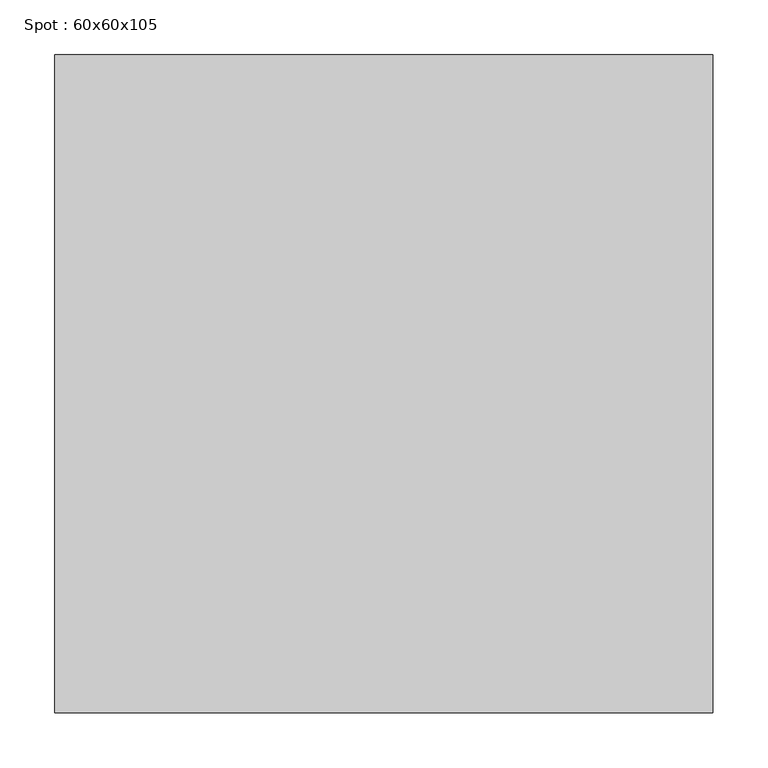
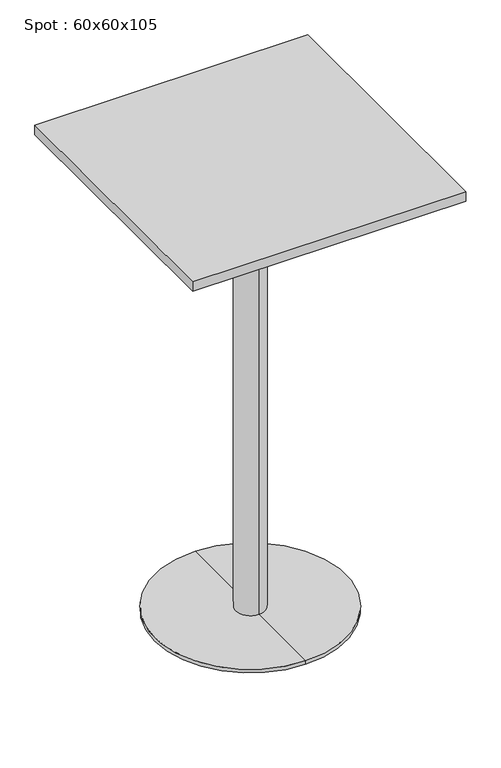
"""IFC4 building model written with IfcOpenShell, lengths in millimetres: furniture geometry, Spot : 60x60x105."""

import ifcopenshell
import ifcopenshell.guid

model = None  # the IFC model being written
_history = None  # IfcOwnerHistory: only IFC2X3 demands one
_inside = {}  # id of a spatial element -> (the spatial element, [elements in it])
_under = {}  # id of a project, library or spatial element -> (it, [spatial elements below it])
_declared = {}  # id of a project -> (the project, [libraries it declares])
_typed = {}  # id of a type object -> (the type object, [elements of that type])
_made_of = {}  # id of a material, layer set ... -> (it, [elements and type objects made of it])


def new_model(schema):
    """Start an empty IFC model of exactly this schema.

    Asked for "IFC4X3", IfcOpenShell would pick the latest addendum, in which some entities
    have other attributes; the version numbers below select the first issue.
    IFC2X3 requires an IfcOwnerHistory on every rooted entity: one is made here for all.
    """
    global model, _history
    if schema == "IFC4X3":
        model = ifcopenshell.file(schema_version=(4, 3, 0, 0))
    else:
        model = ifcopenshell.file(schema=schema)
    _inside.clear()
    _under.clear()
    _declared.clear()
    _typed.clear()
    _made_of.clear()
    _history = None
    if model.schema == "IFC2X3":
        org = make("IfcOrganization", Name="unknown")
        user = make(
            "IfcPersonAndOrganization",
            ThePerson=make("IfcPerson", FamilyName="unknown"),
            TheOrganization=org,
        )
        app = make(
            "IfcApplication",
            ApplicationDeveloper=org,
            Version="unknown",
            ApplicationFullName="unknown",
            ApplicationIdentifier="unknown",
        )
        _history = make(
            "IfcOwnerHistory",
            OwningUser=user,
            OwningApplication=app,
            ChangeAction="ADDED",
            CreationDate=0,
        )
    return model


def make(cls, **values):
    """One entity of the class cls with the attributes given. An attribute that is None is left unset."""
    return model.create_entity(
        cls, **{name: value for name, value in values.items() if value is not None}
    )


def rooted(cls, **values):
    """An entity with a GlobalId (a new one), such as an element, a storey or a relation."""
    return make(cls, GlobalId=ifcopenshell.guid.new(), OwnerHistory=_history, **values)


def si_unit(unit_type, name, prefix=None):
    """IfcSIUnit, for example si_unit("LENGTHUNIT", "METRE", prefix="MILLI")."""
    return make("IfcSIUnit", UnitType=unit_type, Prefix=prefix, Name=name)


def assignment(units):
    """IfcUnitAssignment: the units of a project."""
    return None if units is None else make("IfcUnitAssignment", Units=units)


def point(xyz):
    """IfcCartesianPoint."""
    return None if xyz is None else make("IfcCartesianPoint", Coordinates=xyz)


def direction(xyz):
    """IfcDirection."""
    return None if xyz is None else make("IfcDirection", DirectionRatios=xyz)


def frame(location, z_axis=None, x_axis=None):
    """IfcAxis2Placement3D, a coordinate frame: its origin and axes. An axis left out is left unset."""
    return make(
        "IfcAxis2Placement3D",
        Location=point(location),
        Axis=direction(z_axis),
        RefDirection=direction(x_axis),
    )


def origin():
    """The frame at (0, 0, 0) with its axes left unset."""
    return frame((0.0, 0.0, 0.0))


def place(relative_to, where):
    """IfcLocalPlacement: puts the frame where relative to a parent placement (None: the world)."""
    return make(
        "IfcLocalPlacement", PlacementRelTo=relative_to, RelativePlacement=where
    )


def context(
    kind, dimensions, precision=None, world=None, true_north=None, identifier=None
):
    """IfcGeometricRepresentationContext, for example the 3D "Model" context."""
    return make(
        "IfcGeometricRepresentationContext",
        ContextIdentifier=identifier,
        ContextType=kind,
        CoordinateSpaceDimension=dimensions,
        Precision=precision,
        WorldCoordinateSystem=world,
        TrueNorth=true_north,
    )


def project(units=None, contexts=None):
    """IfcProject with its units and contexts."""
    return rooted(
        "IfcProject",
        Name="project",
        RepresentationContexts=contexts,
        UnitsInContext=assignment(units),
    )


def spatial(cls, under=None, at=None, **own):
    """A site, building, storey or space (cls), placed at a placement, below another one or the project."""
    s = rooted(cls, ObjectPlacement=at, **own)
    if under is not None:
        _under.setdefault(under.id(), (under, []))[1].append(s)
    return s


def polyline(points):
    """IfcPolyline through the points."""
    return make("IfcPolyline", Points=[point(p) for p in points])


def circle_curve(where, radius):
    """IfcCircle in the frame where."""
    return make("IfcCircle", Position=where, Radius=radius)


def outline(outer, holes=None, kind="AREA"):
    """IfcArbitraryClosedProfileDef: a profile drawn as a closed curve; with holes, ...WithVoids."""
    if holes is None:
        return make("IfcArbitraryClosedProfileDef", ProfileType=kind, OuterCurve=outer)
    return make(
        "IfcArbitraryProfileDefWithVoids",
        ProfileType=kind,
        OuterCurve=outer,
        InnerCurves=holes,
    )


def extrude(swept, where, along, depth):
    """IfcExtrudedAreaSolid: the profile swept, set in the frame where, extruded along a direction by depth."""
    return make(
        "IfcExtrudedAreaSolid",
        SweptArea=swept,
        Position=where,
        ExtrudedDirection=direction(along),
        Depth=depth,
    )


def shape(context_of_items, identifier, shape_type, items):
    """IfcShapeRepresentation: the items that make up one representation, for example the "Body"."""
    return make(
        "IfcShapeRepresentation",
        ContextOfItems=context_of_items,
        RepresentationIdentifier=identifier,
        RepresentationType=shape_type,
        Items=items,
    )


def source(mapping_origin, context_of_items, identifier, shape_type, items):
    """IfcRepresentationMap: a shape defined once, which mapped items show again and again."""
    return make(
        "IfcRepresentationMap",
        MappingOrigin=mapping_origin,
        MappedRepresentation=shape(context_of_items, identifier, shape_type, items),
    )


def transform(
    local_origin,
    x_axis=None,
    y_axis=None,
    z_axis=None,
    scale=None,
    scale2=None,
    scale3=None,
    uniform=True,
):
    """IfcCartesianTransformationOperator3D, or its non-uniform kind. x_axis, y_axis, z_axis: its Axis1, 2, 3."""
    if uniform:
        return make(
            "IfcCartesianTransformationOperator3D",
            Axis1=direction(x_axis),
            Axis2=direction(y_axis),
            LocalOrigin=point(local_origin),
            Scale=scale,
            Axis3=direction(z_axis),
        )
    return make(
        "IfcCartesianTransformationOperator3DnonUniform",
        Axis1=direction(x_axis),
        Axis2=direction(y_axis),
        LocalOrigin=point(local_origin),
        Scale=scale,
        Axis3=direction(z_axis),
        Scale2=scale2,
        Scale3=scale3,
    )


def mapped(mapping_source, mapping_target):
    """IfcMappedItem: shows the shape of a source again, moved by a transform."""
    return make(
        "IfcMappedItem", MappingSource=mapping_source, MappingTarget=mapping_target
    )


def made_of(thing, what):
    """Note that an element or type object is made of a material, layer set ...; save() writes the relation."""
    if what is not None:
        _made_of.setdefault(what.id(), (what, []))[1].append(thing)
    return thing


def element(
    cls,
    number,
    at=None,
    inside=None,
    cuts=None,
    type_object=None,
    material=None,
    context=None,
    identifier="Body",
    shape_type=None,
    held_by="IfcProductDefinitionShape",
    body=None,
    shapes=None,
    **own,
):
    """One element of the class cls, such as IfcWall. Its Tag is "e" and its number.

    at: its placement. inside: the storey or other place that contains it. cuts: it is an
    opening in that element (IfcRelVoidsElement). A single representation is given by context,
    identifier, shape_type and body (its items); several are given by shapes. held_by: the class
    of the entity that holds the representations. save() writes the other relations.
    """
    e = rooted(cls, Tag="e%d" % number, ObjectPlacement=at, **own)
    if body is not None:
        shapes = [shape(context, identifier, shape_type, body)]
    if shapes is not None:
        e.Representation = make(held_by, Representations=shapes)
    if inside is not None:
        _inside.setdefault(inside.id(), (inside, []))[1].append(e)
    if cuts is not None:
        rooted(
            "IfcRelVoidsElement", RelatingBuildingElement=cuts, RelatedOpeningElement=e
        )
    if type_object is not None:
        _typed.setdefault(type_object.id(), (type_object, []))[1].append(e)
    return made_of(e, material)


def aggregate(whole, parts):
    """IfcRelAggregates: a whole, such as a stair, and the parts it consists of."""
    return rooted("IfcRelAggregates", RelatingObject=whole, RelatedObjects=parts)


def save(model, path):
    """Write the relations noted so far, then the file.

    IfcRelAggregates (storeys below a building ...), IfcRelContainedInSpatialStructure (elements
    in a storey), IfcRelDefinesByType, IfcRelAssociatesMaterial and IfcRelDeclares: one each for
    every whole, place, type object, material and project.
    """
    for whole, parts in _under.values():
        aggregate(whole, parts)
    for where, things in _inside.values():
        rooted(
            "IfcRelContainedInSpatialStructure",
            RelatedElements=things,
            RelatingStructure=where,
        )
    for kind, things in _typed.values():
        rooted("IfcRelDefinesByType", RelatedObjects=things, RelatingType=kind)
    for what, things in _made_of.values():
        rooted("IfcRelAssociatesMaterial", RelatedObjects=things, RelatingMaterial=what)
    for by, libraries in _declared.values():
        rooted("IfcRelDeclares", RelatingContext=by, RelatedDefinitions=libraries)
    model.write(path)


def plane_surface(at):
    """IfcPlane: the flat surface through the origin of the frame at, square to its z axis."""
    return make("IfcPlane", Position=at)


def cylinder_surface(at, radius):
    """IfcCylindricalSurface: all points at the distance radius from the z axis of the frame at."""
    return make("IfcCylindricalSurface", Position=at, Radius=radius)


def revolved_surface(curve, axis_point, axis_direction):
    """IfcSurfaceOfRevolution: the curve turned about the line through axis_point along axis_direction."""
    return make(
        "IfcSurfaceOfRevolution",
        SweptCurve=make("IfcArbitraryOpenProfileDef", ProfileType="CURVE", Curve=curve),
        AxisPosition=make("IfcAxis1Placement", Location=point(axis_point), Axis=direction(axis_direction)),
    )


def advanced_brep(points, edges, surfaces, faces):
    """IfcAdvancedBrep: a solid bounded by faces that lie on surfaces and meet in shared edges.

    An edge is (start, end): straight between two places in points (the first is 0);
    or (start, end, curve); or (start, end, curve, False) where it runs against its curve.
    A face is (place in surfaces, loops), or (place, loops, False) where it looks against
    its surface's normal. A loop lists edges by number (the first is 1), with a minus sign
    where the edge is run from its end to its start. The first loop is the outer one.
    """
    corners = [point(p) for p in points]
    vertices = [make("IfcVertexPoint", VertexGeometry=c) for c in corners]
    made = []
    for start, end, *more in edges:
        made.append(
            make(
                "IfcEdgeCurve",
                EdgeStart=vertices[start],
                EdgeEnd=vertices[end],
                EdgeGeometry=more[0] if more else make("IfcPolyline", Points=[corners[start], corners[end]]),
                SameSense=more[1] if len(more) > 1 else True,
            )
        )
    hull = []
    for where, loops, *sense in faces:
        bounds = []
        for j, loop in enumerate(loops):
            ring = [make("IfcOrientedEdge", EdgeElement=made[abs(k) - 1], Orientation=k > 0) for k in loop]
            bounds.append(
                make(
                    "IfcFaceOuterBound" if j == 0 else "IfcFaceBound",
                    Bound=make("IfcEdgeLoop", EdgeList=ring),
                    Orientation=True,
                )
            )
        hull.append(make("IfcAdvancedFace", Bounds=bounds, FaceSurface=surfaces[where], SameSense=sense[0] if sense else True))
    return make("IfcAdvancedBrep", Outer=make("IfcClosedShell", CfsFaces=hull))


def spot_60x60x105_dea08df1(model_context):
    return source(origin(), model_context, "Body", "SolidModel", [
        extrude(outline(polyline([(300.0, 300.0), (300.0, -300.0), (-300.0, -300.0), (-300.0, 300.0), (300.0, 300.0)])), frame((0.0, 0.0, 1028.0), z_axis=(0.0, 0.0, 1.0), x_axis=(1.0, 0.0, 0.0)), (0.0, 0.0, 1.0), 22.0),
        advanced_brep(
        [(0.0, 32.0, 10.0), (0.0, -32.0, 10.0), (0.0, -32.0, 997.406916), (0.0, 32.0, 997.406916), (0.0, 210.0, 10.0), (0.0, -210.0, 10.0), (0.0, 210.0, 2.0), (0.0, -210.0, 2.0), (0.0, 0.0, 2.0), (0.0, 150.0, 1028.0), (0.0, -150.0, 1028.0), (0.0, 0.0, 1028.0), (0.0, 150.0, 1016.7213673), (0.0, -150.0, 1016.7213673)],
        [
            (0, 1, circle_curve(frame((0.0, 0.0, 10.0), z_axis=(0.0, 0.0, 1.0), x_axis=(0.0, -1.0, 0.0)), 32.0)),
            (1, 2),
            (2, 3, circle_curve(frame((0.0, 0.0, 997.406916), z_axis=(0.0, 0.0, -1.0), x_axis=(0.0, -1.0, 0.0)), 32.0)),
            (3, 0),
            (1, 0, circle_curve(frame((0.0, 0.0, 10.0), z_axis=(0.0, 0.0, 1.0), x_axis=(0.0, -1.0, 0.0)), 32.0)),
            (3, 2, circle_curve(frame((0.0, 0.0, 997.406916), z_axis=(0.0, 0.0, -1.0), x_axis=(0.0, -1.0, 0.0)), 32.0)),
            (4, 5, circle_curve(frame((0.0, 0.0, 10.0), z_axis=(0.0, 0.0, 1.0), x_axis=(0.0, -1.0, 0.0)), 210.0)),
            (5, 1),
            (0, 4),
            (5, 4, circle_curve(frame((0.0, 0.0, 10.0), z_axis=(0.0, 0.0, 1.0), x_axis=(0.0, -1.0, 0.0)), 210.0)),
            (6, 7, circle_curve(frame((0.0, 0.0, 2.0), z_axis=(0.0, 0.0, 1.0), x_axis=(0.0, -1.0, 0.0)), 210.0)),
            (7, 5),
            (4, 6),
            (7, 6, circle_curve(frame((0.0, 0.0, 2.0), z_axis=(0.0, 0.0, 1.0), x_axis=(0.0, -1.0, 0.0)), 210.0)),
            (8, 7),
            (6, 8),
            (9, 10, circle_curve(frame((0.0, 0.0, 1028.0), z_axis=(0.0, 0.0, 1.0), x_axis=(0.0, -1.0, 0.0)), 150.0)),
            (10, 11),
            (11, 9),
            (10, 9, circle_curve(frame((0.0, 0.0, 1028.0), z_axis=(0.0, 0.0, 1.0), x_axis=(0.0, -1.0, 0.0)), 150.0)),
            (12, 13, circle_curve(frame((0.0, 0.0, 1016.7213673), z_axis=(0.0, 0.0, 1.0), x_axis=(0.0, -1.0, 0.0)), 150.0)),
            (13, 10),
            (9, 12),
            (13, 12, circle_curve(frame((0.0, 0.0, 1016.7213673), z_axis=(0.0, 0.0, 1.0), x_axis=(0.0, -1.0, 0.0)), 150.0)),
            (2, 13),
            (12, 3),
        ],
        [
            cylinder_surface(frame((0.0, 0.0, 1390.0), z_axis=(0.0, 0.0, -1.0), x_axis=(0.0, -1.0, 0.0)), 32.0),
            plane_surface(frame((0.0, 0.0, 10.0), z_axis=(0.0, 0.0, 1.0), x_axis=(0.0, -1.0, 0.0))),
            cylinder_surface(frame((0.0, 0.0, 1390.0), z_axis=(0.0, 0.0, -1.0), x_axis=(0.0, -1.0, 0.0)), 210.0),
            plane_surface(frame((0.0, 0.0, 2.0), z_axis=(0.0, 0.0, -1.0), x_axis=(0.0, -1.0, 0.0))),
            plane_surface(frame((0.0, 0.0, 1028.0), z_axis=(0.0, 0.0, 1.0), x_axis=(0.0, -1.0, 0.0))),
            cylinder_surface(frame((0.0, 0.0, 1390.0), z_axis=(0.0, 0.0, -1.0), x_axis=(0.0, -1.0, 0.0)), 150.0),
            revolved_surface(polyline([(0.0, -150.0, 1016.7213673), (0.0, -32.0, 997.406916)]), (0.0, 0.0, 1390.0), (0.0, 0.0, -1.0)),
        ],
        [
            (0, [[1, 2, 3, 4]]),
            (0, [[5, -4, 6, -2]]),
            (1, [[7, 8, -1, 9]]),
            (1, [[10, -9, -5, -8]]),
            (2, [[11, 12, -7, 13]]),
            (2, [[14, -13, -10, -12]]),
            (3, [[15, -11, 16]]),
            (3, [[-16, -14, -15]]),
            (4, [[17, 18, 19]]),
            (4, [[20, -19, -18]]),
            (5, [[21, 22, -17, 23]]),
            (5, [[24, -23, -20, -22]]),
            (6, [[-3, 25, -21, 26]]),
            (6, [[-6, -26, -24, -25]]),
        ],
    ),
    ])


if __name__ == "__main__":
    model = new_model("IFC4")
    model_context = context("Model", 3, world=origin())
    ifc_project = project(units=[si_unit("LENGTHUNIT", "METRE", prefix="MILLI")], contexts=[model_context])
    site = spatial("IfcSite", under=ifc_project)
    building = spatial("IfcBuilding", under=site)
    placement = place(None, origin())
    spot_60x60x105_shape = spot_60x60x105_dea08df1(model_context)
    element("IfcFurniture", 1, ObjectType="Spot : 60x60x105", at=placement, inside=building, context=model_context, shape_type="MappedRepresentation", body=[
        mapped(spot_60x60x105_shape, transform((0.0, 0.0, 0.0), x_axis=(1.0, 0.0, 0.0), y_axis=(0.0, 1.0, 0.0), z_axis=(0.0, 0.0, 1.0))),
    ])
    save(model, "model.ifc")
